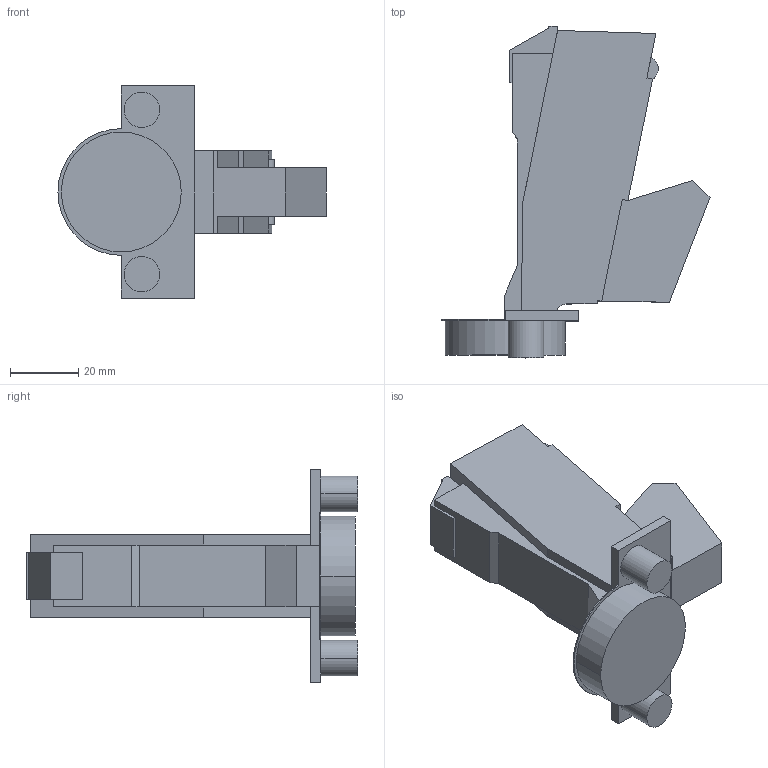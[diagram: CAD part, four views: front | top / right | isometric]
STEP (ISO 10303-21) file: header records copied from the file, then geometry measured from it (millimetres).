
FILE_DESCRIPTION (( 'STEP AP214' ), '1' );
FILE_NAME ('Scharnier TS Click-on 160° S_BB, K00_Dübel.step', '2010-12-13T10:15:58', ( 'grass' ), ( '' ), 'SwSTEP 2.0', 'SolidWorks 2010', '' );
FILE_SCHEMA (( 'AUTOMOTIVE_DESIGN' ));
Length unit declared in the file: millimetre
Products named in the file (1): Scharnier TS Click-on 160° S_BB, K00_Dübel
Bounding box: 78.27 x 96.89 x 62 mm (x, y, z)
Volume: 89571.8 mm3; surface area: 18742.3 mm2
Topology: 1 solids, 1 shells, 67 faces, 176 edges, 116 vertices
Faces by surface type: plane 54, cylinder 13
Entity records: 2078 total; most frequent: CARTESIAN_POINT 360, ORIENTED_EDGE 352, DIRECTION 338, EDGE_CURVE 176, LINE 150, VECTOR 150, VERTEX_POINT 116, AXIS2_PLACEMENT_3D 94
